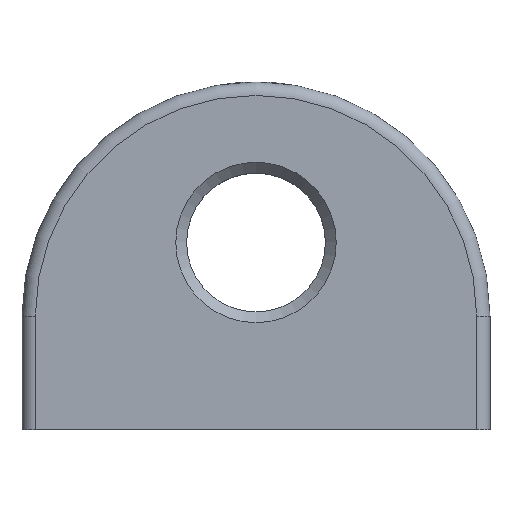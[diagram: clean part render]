
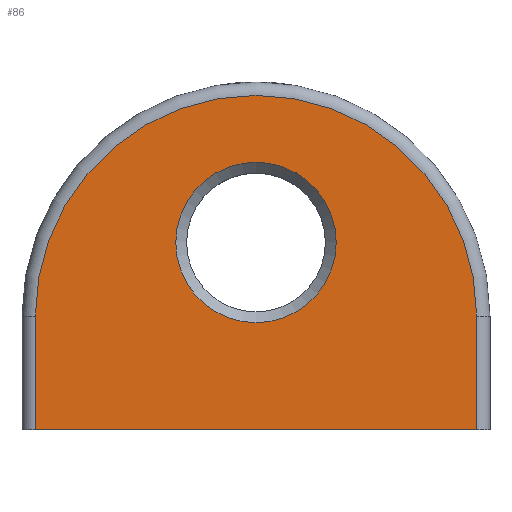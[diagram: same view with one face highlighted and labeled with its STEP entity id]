
A CAD part, top view. The second image highlights one B-rep face of the part: STEP entity #86.
In plain terms, the highlighted planar face has unit normal (0, 0, 1).
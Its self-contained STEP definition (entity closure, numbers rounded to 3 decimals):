
#86 = ADVANCED_FACE( '', ( #149, #150 ), #151, .F. );
#149 = FACE_BOUND( '', #258, .T. );
#150 = FACE_OUTER_BOUND( '', #259, .T. );
#151 = PLANE( '', #260 );
#258 = EDGE_LOOP( '', ( #420 ) );
#259 = EDGE_LOOP( '', ( #421, #422, #423, #424 ) );
#260 = AXIS2_PLACEMENT_3D( '', #425, #426, #427 );
#420 = ORIENTED_EDGE( '', *, *, #633, .T. );
#421 = ORIENTED_EDGE( '', *, *, #663, .F. );
#422 = ORIENTED_EDGE( '', *, *, #640, .F. );
#423 = ORIENTED_EDGE( '', *, *, #664, .T. );
#424 = ORIENTED_EDGE( '', *, *, #656, .T. );
#425 = CARTESIAN_POINT( '', ( -16.5, 8.5, 6. ) );
#426 = DIRECTION( '', ( 0., 0., -1. ) );
#427 = DIRECTION( '', ( -1., 0., 0. ) );
#633 = EDGE_CURVE( '', #720, #720, #721, .T. );
#640 = EDGE_CURVE( '', #733, #735, #736, .T. );
#656 = EDGE_CURVE( '', #765, #763, #766, .T. );
#663 = EDGE_CURVE( '', #735, #763, #774, .T. );
#664 = EDGE_CURVE( '', #733, #765, #775, .T. );
#720 = VERTEX_POINT( '', #968 );
#721 = CIRCLE( '', #969, 6. );
#733 = VERTEX_POINT( '', #981 );
#735 = VERTEX_POINT( '', #983 );
#736 = CIRCLE( '', #984, 16.5 );
#763 = VERTEX_POINT( '', #1020 );
#765 = VERTEX_POINT( '', #1022 );
#766 = LINE( '', #1023, #1024 );
#774 = LINE( '', #1036, #1037 );
#775 = LINE( '', #1038, #1039 );
#968 = CARTESIAN_POINT( '', ( -6., 14., 6. ) );
#969 = AXIS2_PLACEMENT_3D( '', #1149, #1150, #1151 );
#981 = CARTESIAN_POINT( '', ( -16.5, 8.5, 6. ) );
#983 = CARTESIAN_POINT( '', ( 16.5, 8.5, 6. ) );
#984 = AXIS2_PLACEMENT_3D( '', #1170, #1171, #1172 );
#1020 = CARTESIAN_POINT( '', ( 16.5, 0., 6. ) );
#1022 = CARTESIAN_POINT( '', ( -16.5, 0., 6. ) );
#1023 = CARTESIAN_POINT( '', ( -16.5, 0., 6. ) );
#1024 = VECTOR( '', #1200, 1000. );
#1036 = CARTESIAN_POINT( '', ( 16.5, 8.5, 6. ) );
#1037 = VECTOR( '', #1211, 1000. );
#1038 = CARTESIAN_POINT( '', ( -16.5, 8.5, 6. ) );
#1039 = VECTOR( '', #1212, 1000. );
#1149 = CARTESIAN_POINT( '', ( 0., 14., 6. ) );
#1150 = DIRECTION( '', ( 0., 0., -1. ) );
#1151 = DIRECTION( '', ( -1., 0., 0. ) );
#1170 = CARTESIAN_POINT( '', ( 0., 8.5, 6. ) );
#1171 = DIRECTION( '', ( 0., 0., -1. ) );
#1172 = DIRECTION( '', ( -1., 0., 0. ) );
#1200 = DIRECTION( '', ( 1., 0., 0. ) );
#1211 = DIRECTION( '', ( 0., -1., 0. ) );
#1212 = DIRECTION( '', ( 0., -1., 0. ) );
